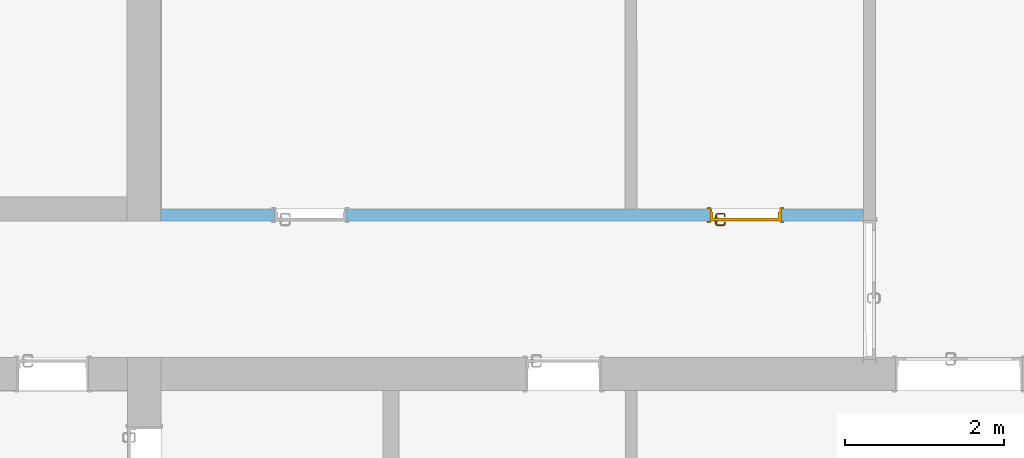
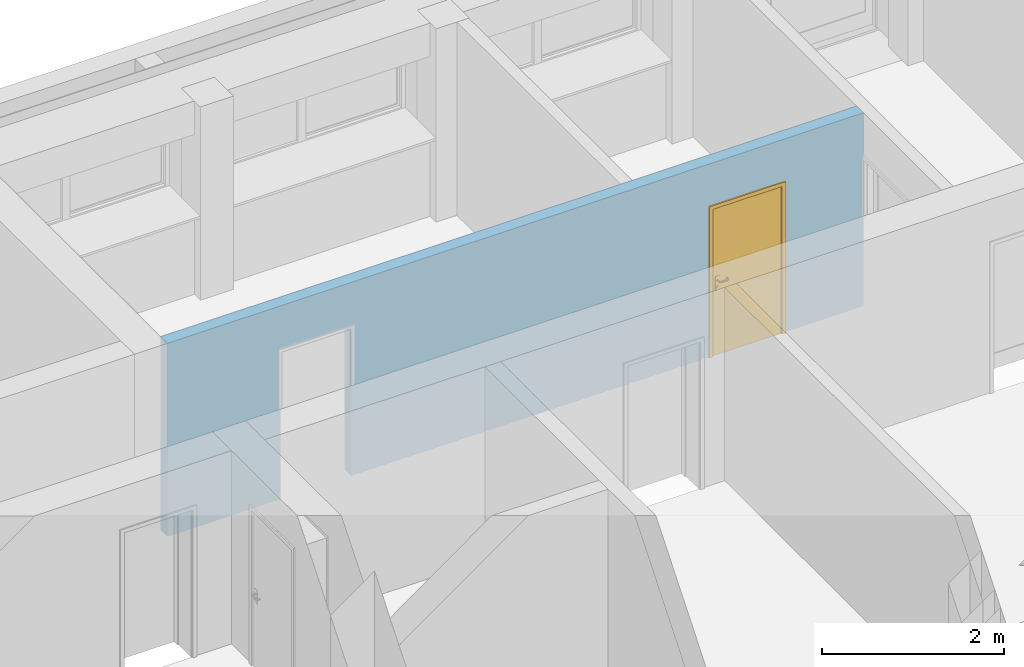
# One storey, part 20 of 127: 1 door, 2 openings, plus 1 element that does not belong to this part.
"""IFC2X3 building model written with IfcOpenShell, lengths in millimetres."""

from ifc_helpers import new_model, entity, si_unit, converted_unit, derived_unit, money_unit, direction, frame, origin_with_axes, origin_2d_with_axis, place, context, subcontext, project, spatial, polyline, rectangle, outline, extrude, open_shell, faceted_brep, surface_model, source, transform, mapped, material, layer, layer_set, layer_usage, type_object, element, fill, save


model = new_model("IFC2X3")

# Units and contexts
model_context = context("Model", 3, precision=1e-05, world=origin_with_axes(), true_north=direction((0.0, 1.0)))
body_context = subcontext(model_context, "Body", "Model", "MODEL_VIEW")
ifc_project = project(units=[si_unit("LENGTHUNIT", "METRE", prefix="MILLI"), si_unit("AREAUNIT", "SQUARE_METRE"), si_unit("VOLUMEUNIT", "CUBIC_METRE"), converted_unit("PLANEANGLEUNIT", "DEGREE", entity("IfcPlaneAngleMeasure", 0.0174532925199), si_unit("PLANEANGLEUNIT", "RADIAN"), dimensions=[0, 0, 0, 0, 0, 0, 0]), si_unit("SOLIDANGLEUNIT", "STERADIAN"), money_unit("EUR"), converted_unit("TIMEUNIT", "Year", entity("IfcTimeMeasure", 31556926.0), si_unit("TIMEUNIT", "SECOND"), dimensions=[0, 0, 1, 0, 0, 0, 0]), si_unit("MASSUNIT", "GRAM", prefix="KILO"), si_unit("THERMODYNAMICTEMPERATUREUNIT", "DEGREE_CELSIUS"), si_unit("LUMINOUSINTENSITYUNIT", "LUMEN"), si_unit("ENERGYUNIT", "JOULE", prefix="MEGA"), derived_unit("THERMALCONDUCTANCEUNIT", [(si_unit("POWERUNIT", "WATT"), 1), (si_unit("LENGTHUNIT", "METRE"), -1), (si_unit("THERMODYNAMICTEMPERATUREUNIT", "KELVIN"), -1)]), derived_unit("SPECIFICHEATCAPACITYUNIT", [(si_unit("ENERGYUNIT", "JOULE"), 1), (si_unit("MASSUNIT", "GRAM", prefix="KILO"), -1), (si_unit("THERMODYNAMICTEMPERATUREUNIT", "KELVIN"), -1)]), derived_unit("MASSDENSITYUNIT", [(si_unit("MASSUNIT", "GRAM", prefix="KILO"), 1), (si_unit("VOLUMEUNIT", "CUBIC_METRE"), -1)])], contexts=[model_context])

# Site, building, storey
site_placement = place(None, origin_with_axes())
site = spatial("IfcSite", under=ifc_project, at=site_placement, Name="Site", CompositionType="ELEMENT")
building_placement = place(site_placement, origin_with_axes())
building = spatial("IfcBuilding", under=site, at=building_placement, Name="Building", CompositionType="ELEMENT")
storey_placement = place(building_placement, origin_with_axes())
storey = spatial("IfcBuildingStorey", under=building, at=storey_placement, Name="1 KORRUS", CompositionType="ELEMENT", Elevation=0.0)

# Wall, openings, door
ifc_material = material(Name="Kivi -Ol.Olev Konstruktsioon")
ifc_layer = layer(ifc_material, 150.0, ventilated="UNKNOWN")
ifc_layer_set = layer_set([ifc_layer], Name="ol.olev ss 150")
ifc_layer_usage = layer_usage(ifc_layer_set, "AXIS2", "POSITIVE", 0.0)
wall_type = type_object("IfcWallType", Name="SW - 036", PredefinedType="NOTDEFINED")
wall_placement = place(storey_placement, frame((87732.1709145, 42721.226444, 0.0), z_axis=(0.0, 0.0, 1.0), x_axis=(1.0, 0.0, 0.0)))
wall = element("IfcWallStandardCase", 1, at=wall_placement, inside=storey, type_object=wall_type, material=ifc_layer_usage, Name="ol.olev ss 150", context=body_context, shape_type="SweptSolid", body=[
    extrude(outline(polyline([(420.000265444, 0.0), (9275.21438642, 0.0), (9275.21438642, 150.0), (419.817612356, 150.0), (420.000265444, 0.0)])), origin_with_axes(), (0.0, 0.0, 1.0), 2600.0),
])
opening_1_placement = place(wall_placement, frame((2306.77435654, 0.0, 0.0), z_axis=(0.0, 0.0, 1.0), x_axis=(1.0, 0.0, 0.0)))
element("IfcOpeningElement", 2, at=opening_1_placement, cuts=wall, Name="Siseuks * Door 22", context=body_context, shape_type="SweptSolid", body=[
    extrude(rectangle(XDim=900.0, YDim=2000.0, at=origin_2d_with_axis()), frame((0.0, 150.0, 1000.0), z_axis=(0.0, 1.0, 0.0), x_axis=(1.0, 0.0, 0.0)), (0.0, 0.0, -1.0), 450.0),
    extrude(rectangle(XDim=974.0, YDim=2037.0, at=origin_2d_with_axis()), frame((0.0, 150.0, 1018.5), z_axis=(0.0, 1.0, 0.0), x_axis=(1.0, 0.0, 0.0)), (0.0, 0.0, 1.0), 150.0),
    extrude(rectangle(XDim=974.0, YDim=2037.0, at=origin_2d_with_axis()), frame((0.0, 0.0, 1018.5), z_axis=(0.0, -1.0, 0.0), x_axis=(1.0, 0.0, 0.0)), (0.0, 0.0, 1.0), 150.0),
])
opening_2_placement = place(wall_placement, frame((7790.00338246, 0.0, 0.0), z_axis=(0.0, 0.0, 1.0), x_axis=(1.0, 0.0, 0.0)))
opening_2 = element("IfcOpeningElement", 3, at=opening_2_placement, cuts=wall, Name="Siseuks * Door 22", context=body_context, shape_type="SweptSolid", body=[
    extrude(rectangle(XDim=900.0, YDim=2000.0, at=origin_2d_with_axis()), frame((0.0, 150.0, 1000.0), z_axis=(0.0, 1.0, 0.0), x_axis=(1.0, 0.0, 0.0)), (0.0, 0.0, -1.0), 450.0),
    extrude(rectangle(XDim=974.0, YDim=2037.0, at=origin_2d_with_axis()), frame((0.0, 150.0, 1018.5), z_axis=(0.0, 1.0, 0.0), x_axis=(1.0, 0.0, 0.0)), (0.0, 0.0, 1.0), 150.0),
    extrude(rectangle(XDim=974.0, YDim=2037.0, at=origin_2d_with_axis()), frame((0.0, 0.0, 1018.5), z_axis=(0.0, -1.0, 0.0), x_axis=(1.0, 0.0, 0.0)), (0.0, 0.0, 1.0), 150.0),
])
door_style = type_object("IfcDoorStyle", Name="SU-B134   900×2\xa0000", ConstructionType="NOTDEFINED", OperationType="SINGLE_SWING_LEFT", ParameterTakesPrecedence=False, Sizeable=False)
shared_shape = source(origin_with_axes(), body_context, "Body", "SurfaceModel", [
    faceted_brep([(450.0, -115.0, 0.0), (450.0, -150.0, 0.0), (425.0, -150.0, 0.0), (425.0, -115.0, 0.0), (450.0, -115.0, 2000.0), (450.0, -150.0, 2000.0), (425.0, -150.0, 1975.0), (425.0, -115.0, 1975.0)], [[[0, 1, 2, 3]], [[4, 5, 1, 0]], [[1, 5, 6, 2]], [[3, 2, 6, 7]], [[0, 3, 7, 4]], [[7, 6, 5, 4]]]),
    faceted_brep([(-450.0, -115.0, 2000.0), (-450.0, -150.0, 2000.0), (-425.0, -150.0, 1975.0), (-425.0, -115.0, 1975.0), (-450.0, -115.0, 0.0), (-450.0, -150.0, 0.0), (-425.0, -150.0, 0.0), (-425.0, -115.0, 0.0)], [[[0, 1, 2, 3]], [[4, 5, 1, 0]], [[1, 5, 6, 2]], [[3, 2, 6, 7]], [[0, 3, 7, 4]], [[7, 6, 5, 4]]]),
    faceted_brep([(425.0, -115.0, 1975.0), (425.0, -150.0, 1975.0), (-425.0, -150.0, 1975.0), (-425.0, -115.0, 1975.0), (450.0, -115.0, 2000.0), (450.0, -150.0, 2000.0), (-450.0, -150.0, 2000.0), (-450.0, -115.0, 2000.0)], [[[0, 1, 2, 3]], [[4, 5, 1, 0]], [[1, 5, 6, 2]], [[3, 2, 6, 7]], [[0, 3, 7, 4]], [[7, 6, 5, 4]]]),
    faceted_brep([(487.0, -169.0, 0.0), (437.0, -169.0, 0.0), (437.0, -150.0, 0.0), (487.0, -150.0, 0.0), (487.0, -169.0, 2037.0), (437.0, -169.0, 1987.0), (437.0, -150.0, 1987.0), (487.0, -150.0, 2037.0)], [[[0, 1, 2, 3]], [[0, 4, 5, 1]], [[1, 5, 6, 2]], [[3, 2, 6, 7]], [[4, 0, 3, 7]], [[5, 4, 7, 6]]]),
    faceted_brep([(-487.0, -169.0, 2037.0), (-437.0, -169.0, 1987.0), (-437.0, -150.0, 1987.0), (-487.0, -150.0, 2037.0), (-487.0, -169.0, 0.0), (-437.0, -169.0, 0.0), (-437.0, -150.0, 0.0), (-487.0, -150.0, 0.0)], [[[0, 1, 2, 3]], [[0, 4, 5, 1]], [[1, 5, 6, 2]], [[3, 2, 6, 7]], [[4, 0, 3, 7]], [[5, 4, 7, 6]]]),
    faceted_brep([(487.0, -169.0, 2037.0), (437.0, -169.0, 1987.0), (437.0, -150.0, 1987.0), (487.0, -150.0, 2037.0), (-487.0, -169.0, 2037.0), (-437.0, -169.0, 1987.0), (-437.0, -150.0, 1987.0), (-487.0, -150.0, 2037.0)], [[[0, 1, 2, 3]], [[0, 4, 5, 1]], [[1, 5, 6, 2]], [[3, 2, 6, 7]], [[4, 0, 3, 7]], [[5, 4, 7, 6]]]),
    faceted_brep([(487.0, 19.0, 0.0), (487.0, 0.0, 0.0), (437.0, 0.0, 0.0), (437.0, 19.0, 0.0), (487.0, 19.0, 2037.0), (487.0, 0.0, 2037.0), (437.0, 0.0, 1987.0), (437.0, 19.0, 1987.0)], [[[0, 1, 2, 3]], [[4, 5, 1, 0]], [[1, 5, 6, 2]], [[3, 2, 6, 7]], [[0, 3, 7, 4]], [[7, 6, 5, 4]]]),
    faceted_brep([(-487.0, 19.0, 2037.0), (-487.0, 0.0, 2037.0), (-437.0, 0.0, 1987.0), (-437.0, 19.0, 1987.0), (-487.0, 19.0, 0.0), (-487.0, 0.0, 0.0), (-437.0, 0.0, 0.0), (-437.0, 19.0, 0.0)], [[[0, 1, 2, 3]], [[4, 5, 1, 0]], [[1, 5, 6, 2]], [[3, 2, 6, 7]], [[0, 3, 7, 4]], [[7, 6, 5, 4]]]),
    faceted_brep([(487.0, 19.0, 2037.0), (487.0, 0.0, 2037.0), (437.0, 0.0, 1987.0), (437.0, 19.0, 1987.0), (-487.0, 19.0, 2037.0), (-487.0, 0.0, 2037.0), (-437.0, 0.0, 1987.0), (-437.0, 19.0, 1987.0)], [[[0, 1, 2, 3]], [[4, 5, 1, 0]], [[1, 5, 6, 2]], [[3, 2, 6, 7]], [[0, 3, 7, 4]], [[7, 6, 5, 4]]]),
    faceted_brep([(410.0, -40.0, 0.0), (410.0, -115.0, 0.0), (410.0, -115.0, 1960.0), (410.0, -40.0, 1960.0), (422.0, -40.0, 0.0), (422.0, 0.0, 0.0), (450.0, 0.0, 0.0), (450.0, -115.0, 0.0), (450.0, -115.0, 1960.0), (422.0, -40.0, 1960.0), (450.0, 0.0, 1960.0), (422.0, 0.0, 1960.0)], [[[0, 1, 2, 3]], [[4, 5, 6, 7, 1, 0]], [[1, 7, 8, 2]], [[9, 3, 2, 8, 10, 11]], [[9, 4, 0, 3]], [[11, 5, 4, 9]], [[11, 10, 6, 5]], [[6, 10, 8, 7]]]),
    faceted_brep([(-422.0, -40.0, 1960.0), (-422.0, 0.0, 1960.0), (-450.0, 0.0, 1960.0), (-450.0, -115.0, 1960.0), (-410.0, -115.0, 1960.0), (-410.0, -40.0, 1960.0), (-422.0, -40.0, 0.0), (-422.0, 0.0, 0.0), (-450.0, 0.0, 0.0), (-450.0, -115.0, 0.0), (-410.0, -115.0, 0.0), (-410.0, -40.0, 0.0)], [[[0, 1, 2, 3, 4, 5]], [[0, 6, 7, 1]], [[7, 8, 2, 1]], [[2, 8, 9, 3]], [[3, 9, 10, 4]], [[5, 4, 10, 11]], [[5, 11, 6, 0]], [[6, 11, 10, 9, 8, 7]]]),
    faceted_brep([(422.0, 0.0, 1972.0), (-422.0, 0.0, 1972.0), (-422.0, 0.0, 1960.0), (-450.0, 0.0, 1960.0), (-450.0, 0.0, 2000.0), (450.0, 0.0, 2000.0), (450.0, 0.0, 1960.0), (422.0, 0.0, 1960.0), (422.0, -40.0, 1972.0), (-422.0, -40.0, 1972.0), (-422.0, -40.0, 1960.0), (-410.0, -40.0, 1960.0), (-410.0, -115.0, 1960.0), (-450.0, -115.0, 1960.0), (-450.0, -115.0, 2000.0), (450.0, -115.0, 2000.0), (450.0, -115.0, 1960.0), (422.0, -40.0, 1960.0), (410.0, -115.0, 1960.0), (410.0, -40.0, 1960.0)], [[[0, 1, 2, 3, 4, 5, 6, 7]], [[0, 8, 9, 1]], [[1, 9, 10, 2]], [[10, 11, 12, 13, 3, 2]], [[4, 3, 13, 14]], [[5, 4, 14, 15]], [[6, 5, 15, 16]], [[17, 7, 6, 16, 18, 19]], [[7, 17, 8, 0]], [[10, 9, 8, 17, 19, 11]], [[19, 18, 12, 11]], [[12, 18, 16, 15, 14, 13]]]),
    faceted_brep([(400.5, -40.0, 1060.0), (343.5, -40.0, 1060.0), (343.5, -43.0, 1060.0), (400.5, -43.0, 1060.0), (400.5, -40.0, 870.0), (343.5, -40.0, 870.0), (343.5, -43.0, 870.0), (400.5, -43.0, 870.0)], [[[0, 1, 2, 3]], [[0, 4, 5, 1]], [[1, 5, 6, 2]], [[3, 2, 6, 7]], [[4, 0, 3, 7]], [[5, 4, 7, 6]]]),
    surface_model("IfcShellBasedSurfaceModel", [(362.0, -53.0, 1000.0), (364.928932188, -53.0, 992.928932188), (364.928932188, -72.303560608, 992.928932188), (362.0, -72.0150859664, 1000.0), (372.0, -53.0, 990.0), (372.0, -73.0, 990.0), (363.816790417, -77.8946748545, 992.928932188), (361.057796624, -76.751862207, 1000.0), (364.928932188, -53.0, 1007.07106781), (364.928932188, -72.303560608, 1007.07106781), (379.071067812, -53.0, 992.928932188), (379.071067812, -73.696439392, 992.928932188), (370.47759065, -80.6536686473, 990.0), (361.044179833, -82.0441798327, 992.928932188), (358.932537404, -79.9325374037, 1000.0), (363.816790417, -77.8946748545, 1007.07106781), (372.0, -53.0, 1010.0), (372.0, -73.0, 1010.0), (382.0, -53.0, 1000.0), (382.0, -73.9849140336, 1000.0), (377.138390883, -83.4126624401, 992.928932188), (366.142135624, -87.1421356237, 990.0), (356.894674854, -84.8167904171, 992.928932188), (355.751862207, -82.0577966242, 1000.0), (361.044179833, -82.0441798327, 1007.07106781), (370.47759065, -80.6536686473, 1010.0), (379.071067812, -53.0, 1007.07106781), (379.071067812, -73.696439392, 1007.07106781), (379.897384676, -84.5554750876, 1000.0), (371.240091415, -92.2400914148, 992.928932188), (359.653668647, -91.4775906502, 990.0), (351.303560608, -85.9289321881, 992.928932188), (351.015085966, -83.0, 1000.0), (356.894674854, -84.8167904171, 1007.07106781), (366.142135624, -87.1421356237, 1010.0), (377.138390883, -83.4126624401, 1007.07106781), (373.351733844, -94.3517338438, 1000.0), (362.41266244, -98.1383908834, 992.928932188), (352.0, -93.0, 990.0), (282.696439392, -85.9289321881, 992.928932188), (282.984914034, -83.0, 1000.0), (351.303560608, -85.9289321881, 1007.07106781), (359.653668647, -91.4775906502, 1010.0), (371.240091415, -92.2400914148, 1007.07106781), (363.555475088, -100.897384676, 1000.0), (352.696439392, -100.071067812, 992.928932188), (282.0, -93.0, 990.0), (277.105325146, -84.8167904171, 992.928932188), (278.248137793, -82.0577966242, 1000.0), (282.696439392, -85.9289321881, 1007.07106781), (352.0, -93.0, 1010.0), (362.41266244, -98.1383908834, 1007.07106781), (352.984914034, -103.0, 1000.0), (281.303560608, -100.071067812, 992.928932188), (274.346331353, -91.4775906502, 990.0), (272.955820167, -82.0441798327, 992.928932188), (275.067462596, -79.9325374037, 1000.0), (277.105325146, -84.8167904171, 1007.07106781), (282.0, -93.0, 1010.0), (352.696439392, -100.071067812, 1007.07106781), (281.015085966, -103.0, 1000.0), (271.58733756, -98.1383908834, 992.928932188), (267.857864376, -87.1421356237, 990.0), (270.183209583, -77.8946748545, 992.928932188), (272.942203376, -76.751862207, 1000.0), (272.955820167, -82.0441798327, 1007.07106781), (274.346331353, -91.4775906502, 1010.0), (281.303560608, -100.071067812, 1007.07106781), (270.444524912, -100.897384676, 1000.0), (262.759908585, -92.2400914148, 992.928932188), (263.52240935, -80.6536686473, 990.0), (269.071067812, -72.303560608, 992.928932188), (272.0, -72.0150859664, 1000.0), (270.183209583, -77.8946748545, 1007.07106781), (267.857864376, -87.1421356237, 1010.0), (271.58733756, -98.1383908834, 1007.07106781), (260.648266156, -94.3517338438, 1000.0), (256.861609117, -83.4126624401, 992.928932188), (262.0, -73.0, 990.0), (269.071067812, -53.0, 992.928932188), (272.0, -53.0, 1000.0), (269.071067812, -72.303560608, 1007.07106781), (263.52240935, -80.6536686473, 1010.0), (262.759908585, -92.2400914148, 1007.07106781), (254.102615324, -84.5554750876, 1000.0), (254.928932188, -73.696439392, 992.928932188), (262.0, -53.0, 990.0), (254.928932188, -53.0, 992.928932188), (252.0, -53.0, 1000.0), (254.928932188, -53.0, 1007.07106781), (262.0, -53.0, 1010.0), (269.071067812, -53.0, 1007.07106781), (262.0, -73.0, 1010.0), (256.861609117, -83.4126624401, 1007.07106781), (252.0, -73.9849140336, 1000.0), (254.928932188, -73.696439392, 1007.07106781)], [open_shell([[[0, 1, 2, 3]], [[1, 4, 5, 2]], [[3, 2, 6, 7]], [[8, 0, 3, 9]], [[4, 10, 11, 5]], [[2, 5, 12, 6]], [[7, 6, 13, 14]], [[9, 3, 7, 15]], [[16, 8, 9, 17]], [[10, 18, 19, 11]], [[5, 11, 20, 12]], [[6, 12, 21, 13]], [[14, 13, 22, 23]], [[15, 7, 14, 24]], [[17, 9, 15, 25]], [[26, 16, 17, 27]], [[18, 26, 27, 19]], [[11, 19, 28, 20]], [[12, 20, 29, 21]], [[13, 21, 30, 22]], [[23, 22, 31, 32]], [[24, 14, 23, 33]], [[25, 15, 24, 34]], [[27, 17, 25, 35]], [[19, 27, 35, 28]], [[20, 28, 36, 29]], [[21, 29, 37, 30]], [[22, 30, 38, 31]], [[32, 31, 39, 40]], [[33, 23, 32, 41]], [[34, 24, 33, 42]], [[35, 25, 34, 43]], [[28, 35, 43, 36]], [[29, 36, 44, 37]], [[30, 37, 45, 38]], [[31, 38, 46, 39]], [[40, 39, 47, 48]], [[41, 32, 40, 49]], [[42, 33, 41, 50]], [[43, 34, 42, 51]], [[36, 43, 51, 44]], [[37, 44, 52, 45]], [[38, 45, 53, 46]], [[39, 46, 54, 47]], [[48, 47, 55, 56]], [[49, 40, 48, 57]], [[50, 41, 49, 58]], [[51, 42, 50, 59]], [[44, 51, 59, 52]], [[45, 52, 60, 53]], [[46, 53, 61, 54]], [[47, 54, 62, 55]], [[56, 55, 63, 64]], [[57, 48, 56, 65]], [[58, 49, 57, 66]], [[59, 50, 58, 67]], [[52, 59, 67, 60]], [[53, 60, 68, 61]], [[54, 61, 69, 62]], [[55, 62, 70, 63]], [[64, 63, 71, 72]], [[65, 56, 64, 73]], [[66, 57, 65, 74]], [[67, 58, 66, 75]], [[60, 67, 75, 68]], [[61, 68, 76, 69]], [[62, 69, 77, 70]], [[63, 70, 78, 71]], [[72, 71, 79, 80]], [[73, 64, 72, 81]], [[74, 65, 73, 82]], [[75, 66, 74, 83]], [[68, 75, 83, 76]], [[69, 76, 84, 77]], [[70, 77, 85, 78]], [[71, 78, 86, 79]], [[80, 79, 86, 87, 88, 89, 90, 91]], [[81, 72, 80, 91]], [[82, 73, 81, 92]], [[83, 74, 82, 93]], [[76, 83, 93, 84]], [[77, 84, 94, 85]], [[78, 85, 87, 86]], [[85, 94, 88, 87]], [[94, 95, 89, 88]], [[95, 92, 90, 89]], [[92, 81, 91, 90]], [[93, 82, 92, 95]], [[84, 93, 95, 94]]])]),
    faceted_brep([(361.607695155, -53.0, 994.0), (360.0, -53.0, 1000.0), (359.0, -43.0, 1000.0), (360.741669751, -43.0, 993.5), (366.0, -53.0, 989.607695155), (372.0, -53.0, 988.0), (378.0, -53.0, 989.607695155), (382.392304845, -53.0, 994.0), (384.0, -53.0, 1000.0), (382.392304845, -53.0, 1006.0), (378.0, -53.0, 1010.39230485), (372.0, -53.0, 1012.0), (366.0, -53.0, 1010.39230485), (361.607695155, -53.0, 1006.0), (360.741669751, -43.0, 1006.5), (365.5, -43.0, 1011.25833025), (372.0, -43.0, 1013.0), (378.5, -43.0, 1011.25833025), (383.258330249, -43.0, 1006.5), (385.0, -43.0, 1000.0), (383.258330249, -43.0, 993.5), (378.5, -43.0, 988.741669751), (372.0, -43.0, 987.0), (365.5, -43.0, 988.741669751)], [[[0, 1, 2, 3]], [[1, 0, 4, 5, 6, 7, 8, 9, 10, 11, 12, 13]], [[1, 13, 14, 2]], [[2, 14, 15, 16, 17, 18, 19, 20, 21, 22, 23, 3]], [[4, 0, 3, 23]], [[5, 4, 23, 22]], [[6, 5, 22, 21]], [[7, 6, 21, 20]], [[8, 7, 20, 19]], [[9, 8, 19, 18]], [[10, 9, 18, 17]], [[11, 10, 17, 16]], [[12, 11, 16, 15]], [[13, 12, 15, 14]]]),
    faceted_brep([(354.679491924, -47.0, 895.0), (352.0, -47.0, 905.0), (350.0, -43.0, 905.0), (352.947441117, -43.0, 894.0), (362.0, -47.0, 887.679491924), (372.0, -47.0, 885.0), (382.0, -47.0, 887.679491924), (389.320508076, -47.0, 895.0), (392.0, -47.0, 905.0), (389.320508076, -47.0, 915.0), (382.0, -47.0, 922.320508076), (372.0, -47.0, 925.0), (362.0, -47.0, 922.320508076), (354.679491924, -47.0, 915.0), (352.947441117, -43.0, 916.0), (361.0, -43.0, 924.052558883), (372.0, -43.0, 927.0), (383.0, -43.0, 924.052558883), (391.052558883, -43.0, 916.0), (394.0, -43.0, 905.0), (391.052558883, -43.0, 894.0), (383.0, -43.0, 885.947441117), (372.0, -43.0, 883.0), (361.0, -43.0, 885.947441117)], [[[0, 1, 2, 3]], [[1, 0, 4, 5, 6, 7, 8, 9, 10, 11, 12, 13]], [[1, 13, 14, 2]], [[2, 14, 15, 16, 17, 18, 19, 20, 21, 22, 23, 3]], [[4, 0, 3, 23]], [[5, 4, 23, 22]], [[6, 5, 22, 21]], [[7, 6, 21, 20]], [[8, 7, 20, 19]], [[9, 8, 19, 18]], [[10, 9, 18, 17]], [[11, 10, 17, 16]], [[12, 11, 16, 15]], [[13, 12, 15, 14]]]),
    faceted_brep([(367.050252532, -49.0, 909.050252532), (365.0, -49.0, 914.0), (364.0, -47.0, 914.0), (366.343145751, -47.0, 908.343145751), (372.0, -49.0, 907.0), (376.949747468, -49.0, 909.050252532), (379.0, -49.0, 914.0), (376.949747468, -49.0, 918.949747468), (372.0, -49.0, 921.0), (367.050252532, -49.0, 918.949747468), (366.343145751, -47.0, 919.656854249), (372.0, -47.0, 922.0), (377.656854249, -47.0, 919.656854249), (380.0, -47.0, 914.0), (377.656854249, -47.0, 908.343145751), (372.0, -47.0, 906.0)], [[[0, 1, 2, 3]], [[1, 0, 4, 5, 6, 7, 8, 9]], [[1, 9, 10, 2]], [[2, 10, 11, 12, 13, 14, 15, 3]], [[4, 0, 3, 15]], [[5, 4, 15, 14]], [[6, 5, 14, 13]], [[7, 6, 13, 12]], [[8, 7, 12, 11]], [[9, 8, 11, 10]]]),
    faceted_brep([(400.5, 0.0, 1060.0), (400.5, 3.0, 1060.0), (343.5, 3.0, 1060.0), (343.5, 0.0, 1060.0), (400.5, 0.0, 870.0), (400.5, 3.0, 870.0), (343.5, 3.0, 870.0), (343.5, 0.0, 870.0)], [[[0, 1, 2, 3]], [[4, 5, 1, 0]], [[1, 5, 6, 2]], [[3, 2, 6, 7]], [[0, 3, 7, 4]], [[7, 6, 5, 4]]]),
    surface_model("IfcShellBasedSurfaceModel", [(362.0, 13.0, 1000.0), (362.0, 32.0150859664, 1000.0), (364.928932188, 32.303560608, 992.928932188), (364.928932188, 13.0, 992.928932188), (364.928932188, 13.0, 1007.07106781), (364.928932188, 32.303560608, 1007.07106781), (361.057796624, 36.751862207, 1000.0), (363.816790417, 37.8946748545, 992.928932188), (372.0, 33.0, 990.0), (372.0, 13.0, 990.0), (372.0, 13.0, 1010.0), (372.0, 33.0, 1010.0), (363.816790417, 37.8946748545, 1007.07106781), (358.932537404, 39.9325374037, 1000.0), (361.044179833, 42.0441798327, 992.928932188), (370.47759065, 40.6536686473, 990.0), (379.071067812, 33.696439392, 992.928932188), (379.071067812, 13.0, 992.928932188), (379.071067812, 13.0, 1007.07106781), (379.071067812, 33.696439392, 1007.07106781), (370.47759065, 40.6536686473, 1010.0), (361.044179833, 42.0441798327, 1007.07106781), (355.751862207, 42.0577966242, 1000.0), (356.894674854, 44.8167904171, 992.928932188), (366.142135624, 47.1421356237, 990.0), (377.138390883, 43.4126624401, 992.928932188), (382.0, 33.9849140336, 1000.0), (382.0, 13.0, 1000.0), (377.138390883, 43.4126624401, 1007.07106781), (366.142135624, 47.1421356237, 1010.0), (356.894674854, 44.8167904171, 1007.07106781), (351.015085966, 43.0, 1000.0), (351.303560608, 45.9289321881, 992.928932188), (359.653668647, 51.4775906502, 990.0), (371.240091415, 52.2400914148, 992.928932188), (379.897384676, 44.5554750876, 1000.0), (371.240091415, 52.2400914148, 1007.07106781), (359.653668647, 51.4775906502, 1010.0), (351.303560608, 45.9289321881, 1007.07106781), (282.984914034, 43.0, 1000.0), (282.696439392, 45.9289321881, 992.928932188), (352.0, 53.0, 990.0), (362.41266244, 58.1383908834, 992.928932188), (373.351733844, 54.3517338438, 1000.0), (362.41266244, 58.1383908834, 1007.07106781), (352.0, 53.0, 1010.0), (282.696439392, 45.9289321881, 1007.07106781), (278.248137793, 42.0577966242, 1000.0), (277.105325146, 44.8167904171, 992.928932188), (282.0, 53.0, 990.0), (352.696439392, 60.0710678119, 992.928932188), (363.555475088, 60.8973846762, 1000.0), (352.696439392, 60.0710678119, 1007.07106781), (282.0, 53.0, 1010.0), (277.105325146, 44.8167904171, 1007.07106781), (275.067462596, 39.9325374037, 1000.0), (272.955820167, 42.0441798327, 992.928932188), (274.346331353, 51.4775906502, 990.0), (281.303560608, 60.0710678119, 992.928932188), (352.984914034, 63.0, 1000.0), (281.303560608, 60.0710678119, 1007.07106781), (274.346331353, 51.4775906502, 1010.0), (272.955820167, 42.0441798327, 1007.07106781), (272.942203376, 36.751862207, 1000.0), (270.183209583, 37.8946748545, 992.928932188), (267.857864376, 47.1421356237, 990.0), (271.58733756, 58.1383908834, 992.928932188), (281.015085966, 63.0, 1000.0), (271.58733756, 58.1383908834, 1007.07106781), (267.857864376, 47.1421356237, 1010.0), (270.183209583, 37.8946748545, 1007.07106781), (272.0, 32.0150859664, 1000.0), (269.071067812, 32.303560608, 992.928932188), (263.52240935, 40.6536686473, 990.0), (262.759908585, 52.2400914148, 992.928932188), (270.444524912, 60.8973846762, 1000.0), (262.759908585, 52.2400914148, 1007.07106781), (263.52240935, 40.6536686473, 1010.0), (269.071067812, 32.303560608, 1007.07106781), (272.0, 13.0, 1000.0), (269.071067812, 13.0, 992.928932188), (262.0, 33.0, 990.0), (256.861609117, 43.4126624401, 992.928932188), (260.648266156, 54.3517338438, 1000.0), (256.861609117, 43.4126624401, 1007.07106781), (262.0, 33.0, 1010.0), (269.071067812, 13.0, 1007.07106781), (262.0, 13.0, 1010.0), (254.928932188, 13.0, 1007.07106781), (252.0, 13.0, 1000.0), (254.928932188, 13.0, 992.928932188), (262.0, 13.0, 990.0), (254.928932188, 33.696439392, 992.928932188), (254.102615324, 44.5554750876, 1000.0), (254.928932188, 33.696439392, 1007.07106781), (252.0, 33.9849140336, 1000.0)], [open_shell([[[0, 1, 2, 3]], [[4, 5, 1, 0]], [[1, 6, 7, 2]], [[3, 2, 8, 9]], [[10, 11, 5, 4]], [[5, 12, 6, 1]], [[6, 13, 14, 7]], [[2, 7, 15, 8]], [[9, 8, 16, 17]], [[18, 19, 11, 10]], [[11, 20, 12, 5]], [[12, 21, 13, 6]], [[13, 22, 23, 14]], [[7, 14, 24, 15]], [[8, 15, 25, 16]], [[17, 16, 26, 27]], [[27, 26, 19, 18]], [[19, 28, 20, 11]], [[20, 29, 21, 12]], [[21, 30, 22, 13]], [[22, 31, 32, 23]], [[14, 23, 33, 24]], [[15, 24, 34, 25]], [[16, 25, 35, 26]], [[26, 35, 28, 19]], [[28, 36, 29, 20]], [[29, 37, 30, 21]], [[30, 38, 31, 22]], [[31, 39, 40, 32]], [[23, 32, 41, 33]], [[24, 33, 42, 34]], [[25, 34, 43, 35]], [[35, 43, 36, 28]], [[36, 44, 37, 29]], [[37, 45, 38, 30]], [[38, 46, 39, 31]], [[39, 47, 48, 40]], [[32, 40, 49, 41]], [[33, 41, 50, 42]], [[34, 42, 51, 43]], [[43, 51, 44, 36]], [[44, 52, 45, 37]], [[45, 53, 46, 38]], [[46, 54, 47, 39]], [[47, 55, 56, 48]], [[40, 48, 57, 49]], [[41, 49, 58, 50]], [[42, 50, 59, 51]], [[51, 59, 52, 44]], [[52, 60, 53, 45]], [[53, 61, 54, 46]], [[54, 62, 55, 47]], [[55, 63, 64, 56]], [[48, 56, 65, 57]], [[49, 57, 66, 58]], [[50, 58, 67, 59]], [[59, 67, 60, 52]], [[60, 68, 61, 53]], [[61, 69, 62, 54]], [[62, 70, 63, 55]], [[63, 71, 72, 64]], [[56, 64, 73, 65]], [[57, 65, 74, 66]], [[58, 66, 75, 67]], [[67, 75, 68, 60]], [[68, 76, 69, 61]], [[69, 77, 70, 62]], [[70, 78, 71, 63]], [[71, 79, 80, 72]], [[64, 72, 81, 73]], [[65, 73, 82, 74]], [[66, 74, 83, 75]], [[75, 83, 76, 68]], [[76, 84, 77, 69]], [[77, 85, 78, 70]], [[78, 86, 79, 71]], [[79, 86, 87, 88, 89, 90, 91, 80]], [[72, 80, 91, 81]], [[73, 81, 92, 82]], [[74, 82, 93, 83]], [[83, 93, 84, 76]], [[84, 94, 85, 77]], [[85, 87, 86, 78]], [[94, 88, 87, 85]], [[95, 89, 88, 94]], [[92, 90, 89, 95]], [[81, 91, 90, 92]], [[82, 92, 95, 93]], [[93, 95, 94, 84]]])]),
    faceted_brep([(361.607695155, 13.0, 994.0), (360.741669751, 3.0, 993.5), (359.0, 3.0, 1000.0), (360.0, 13.0, 1000.0), (366.0, 13.0, 989.607695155), (365.5, 3.0, 988.741669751), (372.0, 3.0, 987.0), (378.5, 3.0, 988.741669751), (383.258330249, 3.0, 993.5), (385.0, 3.0, 1000.0), (383.258330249, 3.0, 1006.5), (378.5, 3.0, 1011.25833025), (372.0, 3.0, 1013.0), (365.5, 3.0, 1011.25833025), (360.741669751, 3.0, 1006.5), (361.607695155, 13.0, 1006.0), (366.0, 13.0, 1010.39230485), (372.0, 13.0, 1012.0), (378.0, 13.0, 1010.39230485), (382.392304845, 13.0, 1006.0), (384.0, 13.0, 1000.0), (382.392304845, 13.0, 994.0), (378.0, 13.0, 989.607695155), (372.0, 13.0, 988.0)], [[[0, 1, 2, 3]], [[4, 5, 1, 0]], [[2, 1, 5, 6, 7, 8, 9, 10, 11, 12, 13, 14]], [[3, 2, 14, 15]], [[3, 15, 16, 17, 18, 19, 20, 21, 22, 23, 4, 0]], [[23, 6, 5, 4]], [[22, 7, 6, 23]], [[21, 8, 7, 22]], [[20, 9, 8, 21]], [[19, 10, 9, 20]], [[18, 11, 10, 19]], [[17, 12, 11, 18]], [[16, 13, 12, 17]], [[15, 14, 13, 16]]]),
    faceted_brep([(354.679491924, 7.0, 895.0), (352.947441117, 3.0, 894.0), (350.0, 3.0, 905.0), (352.0, 7.0, 905.0), (362.0, 7.0, 887.679491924), (361.0, 3.0, 885.947441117), (372.0, 3.0, 883.0), (383.0, 3.0, 885.947441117), (391.052558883, 3.0, 894.0), (394.0, 3.0, 905.0), (391.052558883, 3.0, 916.0), (383.0, 3.0, 924.052558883), (372.0, 3.0, 927.0), (361.0, 3.0, 924.052558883), (352.947441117, 3.0, 916.0), (354.679491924, 7.0, 915.0), (362.0, 7.0, 922.320508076), (372.0, 7.0, 925.0), (382.0, 7.0, 922.320508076), (389.320508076, 7.0, 915.0), (392.0, 7.0, 905.0), (389.320508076, 7.0, 895.0), (382.0, 7.0, 887.679491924), (372.0, 7.0, 885.0)], [[[0, 1, 2, 3]], [[4, 5, 1, 0]], [[2, 1, 5, 6, 7, 8, 9, 10, 11, 12, 13, 14]], [[3, 2, 14, 15]], [[3, 15, 16, 17, 18, 19, 20, 21, 22, 23, 4, 0]], [[23, 6, 5, 4]], [[22, 7, 6, 23]], [[21, 8, 7, 22]], [[20, 9, 8, 21]], [[19, 10, 9, 20]], [[18, 11, 10, 19]], [[17, 12, 11, 18]], [[16, 13, 12, 17]], [[15, 14, 13, 16]]]),
    faceted_brep([(367.050252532, 9.0, 909.050252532), (366.343145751, 7.0, 908.343145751), (364.0, 7.0, 914.0), (365.0, 9.0, 914.0), (372.0, 9.0, 907.0), (372.0, 7.0, 906.0), (377.656854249, 7.0, 908.343145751), (380.0, 7.0, 914.0), (377.656854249, 7.0, 919.656854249), (372.0, 7.0, 922.0), (366.343145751, 7.0, 919.656854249), (367.050252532, 9.0, 918.949747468), (372.0, 9.0, 921.0), (376.949747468, 9.0, 918.949747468), (379.0, 9.0, 914.0), (376.949747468, 9.0, 909.050252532)], [[[0, 1, 2, 3]], [[4, 5, 1, 0]], [[2, 1, 5, 6, 7, 8, 9, 10]], [[3, 2, 10, 11]], [[3, 11, 12, 13, 14, 15, 4, 0]], [[15, 6, 5, 4]], [[14, 7, 6, 15]], [[13, 8, 7, 14]], [[12, 9, 8, 13]], [[11, 10, 9, 12]]]),
    faceted_brep([(-422.0, 0.0, 0.0), (422.0, 0.0, 0.0), (422.0, -40.0, 0.0), (-422.0, -40.0, 0.0), (-422.0, 0.0, 1972.0), (422.0, 0.0, 1972.0), (422.0, -40.0, 1972.0), (-422.0, -40.0, 1972.0)], [[[0, 1, 2, 3]], [[0, 4, 5, 1]], [[1, 5, 6, 2]], [[3, 2, 6, 7]], [[4, 0, 3, 7]], [[5, 4, 7, 6]]]),
])
door_placement = place(opening_2_placement, frame((450.0, 0.0, 0.0), z_axis=(0.0, 0.0, 1.0), x_axis=(-1.0, 0.0, 0.0)))
door = element("IfcDoor", 4, at=door_placement, inside=storey, type_object=door_style, Name="Siseuks * Door 22", OverallHeight=2000.0, OverallWidth=900.0, context=body_context, shape_type="MappedRepresentation", body=[
    mapped(shared_shape, transform((450.0, 0.0, 0.0))),
])
fill(opening_2, door)

save(model, "model.ifc")
